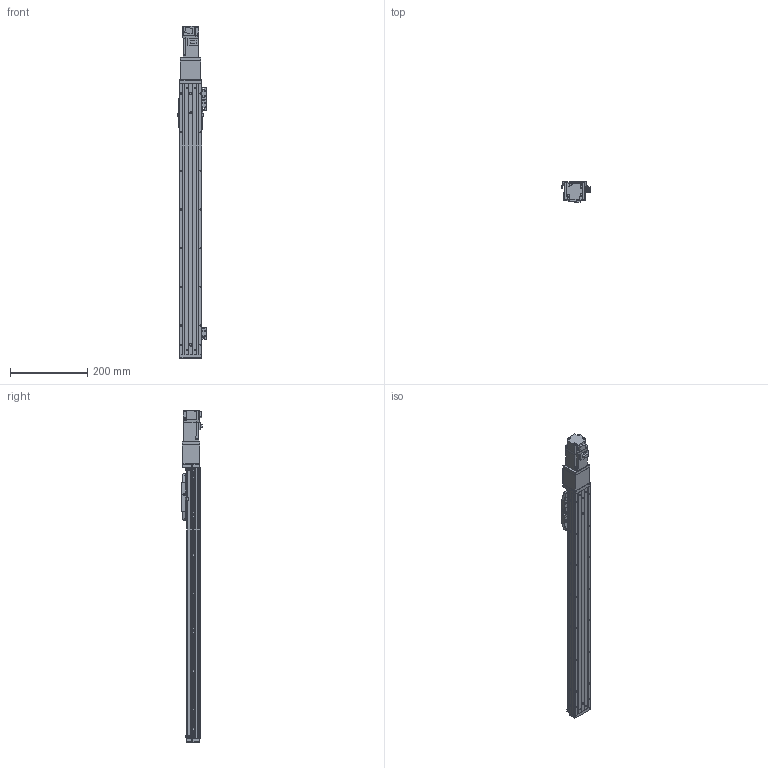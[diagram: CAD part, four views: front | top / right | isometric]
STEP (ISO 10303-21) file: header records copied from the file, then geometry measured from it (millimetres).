
FILE_DESCRIPTION (( 'STEP AP203' ), '1' );
FILE_NAME ('CTHA50-550-BC-M10-C4L.step', '2022-03-19T05:57:00', ( '微软用户' ), ( '微软中国' ), 'SwSTEP 2.0', 'SolidWorks 2020', '' );
FILE_SCHEMA (( 'CONFIG_CONTROL_DESIGN' ));
Length unit declared in the file: millimetre
Products named in the file (20): GBT 70.1-M3℅6; KTHA50-001_700; HG-KR13（三菱）; CTHA60-017; KTHA50-004; GBT 70.3-M3℅6; GBT 70.1-M4×12; CTHA60-016; KTHA50-005; CTHA50-002; CTHA60-021; GB¨uT 70.2-M3¡Á6_M3¡Á6; CTHA50-030; CTHA50-027; EE_SX911P_R; CTHA50-031; CTHA50-006-2_CTHA60-006-2; GBT77-2000 M3×3; CTHA50-550-BC-M10-C4L; CTHA50-013
Assembly tree (59 placements, depth 2):
  CTHA50-550-BC-M10-C4L
    KTHA50-001_700
    KTHA50-004
    KTHA50-005
    GB¨uT 70.2-M3¡Á6_M3¡Á6  x10
    EE_SX911P_R  x3
    GBT77-2000 M3×3  x6
    GBT 70.1-M3℅6  x6
    CTHA60-017  x3
    GBT 70.1-M4×12  x10
    CTHA60-016  x2
    CTHA60-021  x2
    CTHA50-027
    CTHA50-006-2_CTHA60-006-2
    CTHA50-013
    HG-KR13（三菱）
    GBT 70.3-M3℅6  x6
    CTHA50-002
    CTHA50-030  x2
    CTHA50-031
Bounding box: 74.12 x 53.3 x 858.6 mm (x, y, z)
Volume: 1380031.3 mm3; surface area: 369028.2 mm2
Topology: 61 solids, 61 shells, 2456 faces, 5850 edges, 3582 vertices
Faces by surface type: plane 1414, cylinder 556, cone 366, torus 96, sphere 24
Entity records: 40636 total; most frequent: CARTESIAN_POINT 6563, DIRECTION 6520, ORIENTED_EDGE 6268, EDGE_CURVE 3134, VECTOR 2288, LINE 2288, AXIS2_PLACEMENT_3D 2116, VERTEX_POINT 1975
